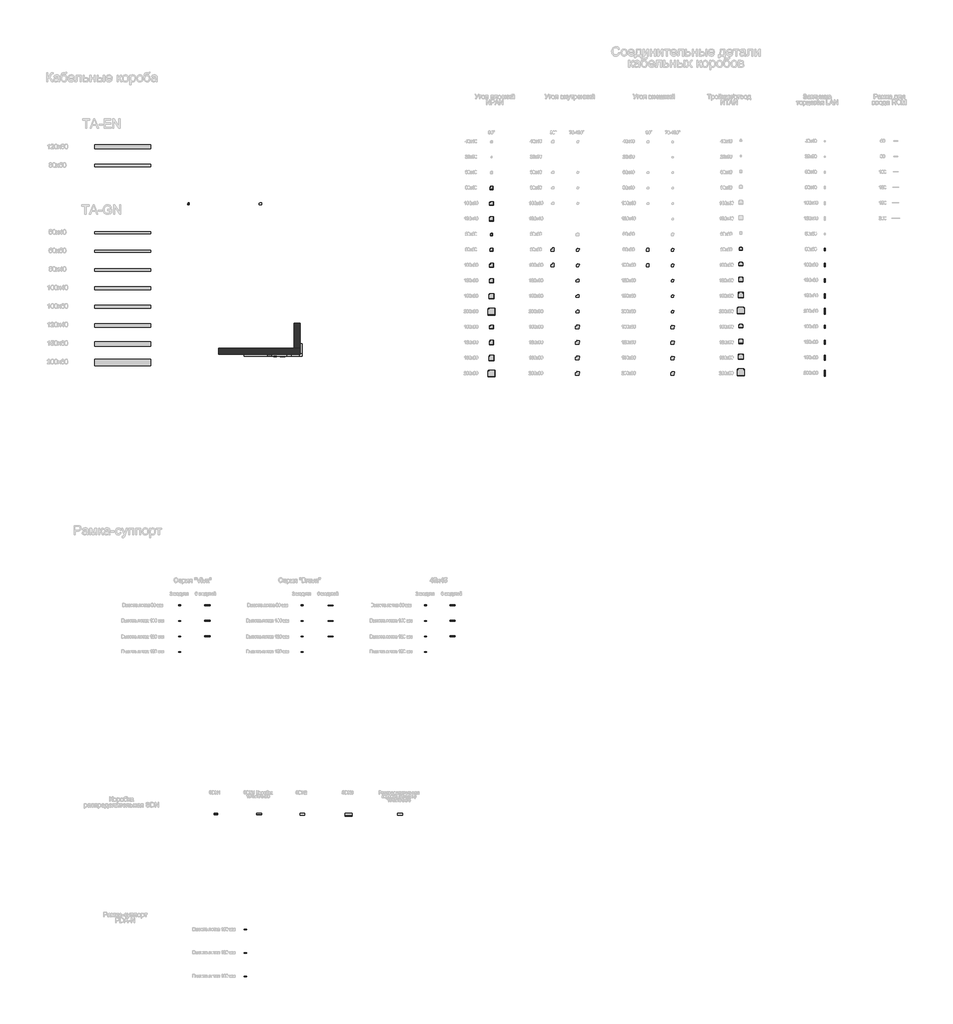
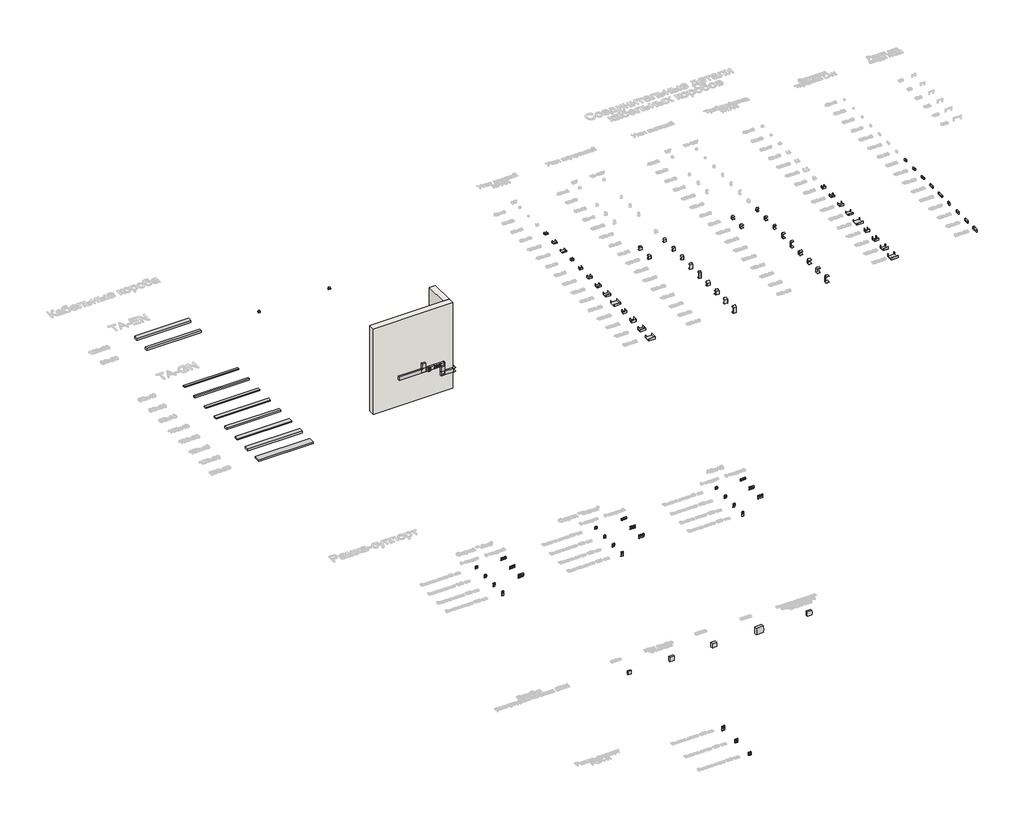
# One storey, part 1 of 28: 59 cable carrier fittings, 38 proxies, 16 cable carrier segments, 2 walls.
"""IFC4 building model written with IfcOpenShell, lengths in millimetres."""

from ifc_helpers import new_model, si_unit, frame, origin, origin_with_axes, place, context, project, spatial, polyline, outline, extrude, faceted_brep, transform, mapped, element, save
from components import electrical_fixtures_6e8f248d, electrical_fixtures_a8bc6f34, electrical_fixtures_fbb4b2cf, sdn2_b9b71641, electrical_fixtures_2476e472, electrical_fixtures_c9cc8b38, electrical_fixtures_5255f015, electrical_fixtures_99f2c199, electrical_fixtures_5095c1bf, electrical_fixtures_38645a5d, electrical_fixtures_1235a608, electrical_fixtures_d3c7e23e, electrical_fixtures_93f455a8, electrical_fixtures_0df07c0a, electrical_fixtures_3a0d8bb6, electrical_fixtures_2c16e1f9, electrical_fixtures_591d0eef, electrical_fixtures_22397321, electrical_fixtures_6fa73d0b, electrical_fixtures_3ef248d6, electrical_fixtures_5d0bade8, electrical_fixtures_432cce51, electrical_fixtures_4fcbd48c, electrical_fixtures_7fec0965, electrical_fixtures_80402f6c, electrical_fixtures_b42f28bd, electrical_fixtures_c11c9339, electrical_fixtures_f8a1da3e, electrical_fixtures_c1d9d696, electrical_fixtures_416891ac, sdn1_948e4bac, sdn3_be96d865, cable_carrier_fitting_0575ba35, cable_carrier_fitting_56f15a03, cable_carrier_fitting_73be0968, cable_carrier_fitting_7613269a, cable_carrier_fitting_b300afac, cable_carrier_fitting_613d6a40, cable_carrier_fitting_a28d7fdf, cable_carrier_fitting_3f10c478, cable_carrier_fitting_50db2390, cable_carrier_fitting_ee93082e, cable_carrier_fitting_aaff8641, cable_carrier_fitting_9a72e03a, cable_carrier_fitting_3be20063, cable_carrier_fitting_1a8395f6, cable_carrier_fitting_4b7b0116, cable_carrier_fitting_b38a09ab, cable_carrier_fitting_fade92e3, cable_carrier_fitting_c60b507b, cable_carrier_fitting_d44bfa05, cable_carrier_fitting_6b07f833, cable_carrier_fitting_13c22987, cable_carrier_fitting_f76ab945, cable_carrier_fitting_b63a8de4, cable_carrier_fitting_f998bf8a, cable_carrier_fitting_c251a1f0, cable_carrier_fitting_1948c760, cable_carrier_fitting_fe72e667, cable_carrier_fitting_b617fa5a, cable_carrier_fitting_cc2d4106, cable_carrier_fitting_2fb35160, cable_carrier_fitting_8d848939, cable_carrier_fitting_27f110be, cable_carrier_fitting_e4d8e6e0, cable_carrier_fitting_c69b3609, cable_carrier_fitting_0039d5f1, cable_carrier_fitting_fe56e331, cable_carrier_fitting_2194a555, cable_carrier_fitting_be7ff779, cable_carrier_fitting_7acc3acb, cable_carrier_fitting_e9df8fe0, cable_carrier_fitting_b130910e, cable_carrier_fitting_7ee510ea, cable_carrier_fitting_65dc1eb4, cable_carrier_fitting_08323b9c, cable_carrier_fitting_25b4d83d, cable_carrier_fitting_59f07115, cable_carrier_fitting_e31a74c1, cable_carrier_fitting_a3d88900, cable_carrier_fitting_4aacc9ff, cable_carrier_fitting_ef85a075, cable_carrier_fitting_e598b078, cable_carrier_fitting_8e881f24, cable_carrier_fitting_521029ce, cable_carrier_fitting_6c5671ed, cable_carrier_fitting_3baeb6d4, cable_carrier_fitting_06fe3dde, cable_carrier_fitting_a1622b1d, cable_carrier_fitting_fd6ecaf9

model = new_model("IFC4")

# Units and contexts
model_context = context("Model", 3, world=origin())
ifc_project = project(units=[si_unit("LENGTHUNIT", "METRE", prefix="MILLI")], contexts=[model_context])

# Site, building, storey
site = spatial("IfcSite", under=ifc_project)
building = spatial("IfcBuilding", under=site)
storey = spatial("IfcBuildingStorey", under=building, Name="Этаж 01", Elevation=0.0)

# Proxies
placement = place(None, origin())
electrical_fixtures_shape = electrical_fixtures_6e8f248d(model_context)
element("IfcBuildingElementProxy", 1, Name="КНС_СиловыеЭлектрическиеРозеткиШтекерныеСЗаземлениемИСоШторками_DKC : Белый", ObjectType="КНС_СиловыеЭлектрическиеРозеткиШтекерныеСЗаземлениемИСоШторками_DKC : Белый", at=placement, inside=storey, context=model_context, shape_type="MappedRepresentation", body=[
    mapped(electrical_fixtures_shape, transform((7010.305956, -3848.3703067, 1023.5822995), x_axis=(1.0, 0.0, 0.0), y_axis=(0.0, 1.0, 0.0), z_axis=(0.0, 0.0, 1.0))),
])
element("IfcBuildingElementProxy", 2, Name="КНС_СиловыеЭлектрическиеРозеткиШтекерныеСЗаземлениемИСоШторками_DKC : Белый", ObjectType="КНС_СиловыеЭлектрическиеРозеткиШтекерныеСЗаземлениемИСоШторками_DKC : Белый", at=placement, inside=storey, context=model_context, shape_type="MappedRepresentation", body=[
    mapped(electrical_fixtures_shape, transform((7062.805956, -3848.3703067, 1023.5822995), x_axis=(1.0, 0.0, 0.0), y_axis=(0.0, 1.0, 0.0), z_axis=(0.0, 0.0, 1.0))),
])
element("IfcBuildingElementProxy", 3, Name="КНС_СиловыеЭлектрическиеРозеткиШтекерныеСЗаземлениемИСоШторками_DKC : Белый", ObjectType="КНС_СиловыеЭлектрическиеРозеткиШтекерныеСЗаземлениемИСоШторками_DKC : Белый", at=placement, inside=storey, context=model_context, shape_type="MappedRepresentation", body=[
    mapped(electrical_fixtures_shape, transform((6800.3265592, -3850.4453067, 1000.0), x_axis=(1.0, 0.0, 0.0), y_axis=(0.0, 1.0, 0.0), z_axis=(0.0, 0.0, 1.0))),
])
electrical_fixtures_2_shape = electrical_fixtures_a8bc6f34(model_context)
element("IfcBuildingElementProxy", 4, Name="КНС_КомпьютерныеРозетки_DKC : Категория 5e", ObjectType="КНС_КомпьютерныеРозетки_DKC : Категория 5e", at=placement, inside=storey, context=model_context, shape_type="MappedRepresentation", body=[
    mapped(electrical_fixtures_2_shape, transform((7102.3876266, -3862.6703067, 1023.5822995), x_axis=(1.0, 0.0, 0.0), y_axis=(0.0, 1.0, 0.0), z_axis=(0.0, 0.0, 1.0))),
])
electrical_fixtures_3_shape = electrical_fixtures_fbb4b2cf(model_context)
element("IfcBuildingElementProxy", 5, Name="КНС_КоробкаРаспределительнаяSDN_ILC_DKC : SDN1 Коробка 151х151х60", ObjectType="КНС_КоробкаРаспределительнаяSDN_ILC_DKC : SDN1 Коробка 151х151х60", at=placement, inside=storey, context=model_context, shape_type="MappedRepresentation", body=[
    mapped(electrical_fixtures_3_shape, transform((6281.6292465, -18646.7707518, 0.0), x_axis=(1.0, 0.0, 0.0), y_axis=(0.0, 1.0, 0.0), z_axis=(0.0, 0.0, 1.0))),
])
sdn2_shape = sdn2_b9b71641(model_context)
element("IfcBuildingElementProxy", 6, Name="КНС_КоробкаРаспределительнаяSDN_ILC_DKC : Распределительная коробка (Италия) 151х151х75", ObjectType="КНС_КоробкаРаспределительнаяSDN_ILC_DKC : Распределительная коробка (Италия) 151х151х75", at=placement, inside=storey, context=model_context, shape_type="MappedRepresentation", body=[
    mapped(sdn2_shape, transform((10841.6292465, -18646.7707518, 0.0), x_axis=(1.0, 0.0, 0.0), y_axis=(0.0, 1.0, 0.0), z_axis=(0.0, 0.0, 1.0))),
])
electrical_fixtures_4_shape = electrical_fixtures_2476e472(model_context)
element("IfcBuildingElementProxy", 7, Name="КНС_КаркасНа2Модуля(одноместный)БезЛапок_DKC : 2 модуля", ObjectType="КНС_КаркасНа2Модуля(одноместный)БезЛапок_DKC : 2 модуля", at=placement, inside=storey, context=model_context, shape_type="MappedRepresentation", body=[
    mapped(electrical_fixtures_4_shape, transform((6799.7623631, -3878.7453067, 1000.0), x_axis=(1.0, 0.0, 0.0), y_axis=(0.0, 1.0, 0.0), z_axis=(0.0, 0.0, 1.0))),
])
electrical_fixtures_5_shape = electrical_fixtures_c9cc8b38(model_context)
element("IfcBuildingElementProxy", 8, Name="КНС_РамкаДляМонтажаЭУИBravaВКоробкиPDD-N60_DKC : 2 модуля", ObjectType="КНС_РамкаДляМонтажаЭУИBravaВКоробкиPDD-N60_DKC : 2 модуля", at=placement, inside=storey, context=model_context, shape_type="MappedRepresentation", body=[
    mapped(electrical_fixtures_5_shape, transform((6799.7623631, -3880.7453067, 1000.0), x_axis=(1.0, 0.0, 0.0), y_axis=(0.0, 1.0, 0.0), z_axis=(0.0, 0.0, 1.0))),
])
electrical_fixtures_6_shape = electrical_fixtures_5255f015(model_context)
element("IfcBuildingElementProxy", 9, Name="КНС_РамкаСуппортPDA-N_ILC_DKC : Рамка суппорт PDA-N_DKC", ObjectType="КНС_РамкаСуппортPDA-N_ILC_DKC : Рамка суппорт PDA-N_DKC", at=placement, inside=storey, context=model_context, shape_type="MappedRepresentation", body=[
    mapped(electrical_fixtures_6_shape, transform((5839.6254197, -23925.9633295, 0.0), x_axis=(1.0, 0.0, 0.0), y_axis=(0.0, 1.0, 0.0), z_axis=(0.0, 0.0, 1.0))),
])
electrical_fixtures_7_shape = electrical_fixtures_99f2c199(model_context)
element("IfcBuildingElementProxy", 10, Name="КНС_РамкаСуппорт_ILC_DKC : Серия \"Viva\"", ObjectType="КНС_РамкаСуппорт_ILC_DKC : Серия \"Viva\"", at=placement, inside=storey, context=model_context, shape_type="MappedRepresentation", body=[
    mapped(electrical_fixtures_7_shape, transform((7049.7623631, -3869.7453067, 1000.0), x_axis=(1.0, 0.0, 0.0), y_axis=(0.0, 1.0, 0.0), z_axis=(0.0, 0.0, 1.0))),
])
element("IfcBuildingElementProxy", 11, Name="КНС_РамкаСуппорт_ILC_DKC : Серия \"Viva\"", ObjectType="КНС_РамкаСуппорт_ILC_DKC : Серия \"Viva\"", at=placement, inside=storey, context=model_context, shape_type="MappedRepresentation", body=[
    mapped(electrical_fixtures_7_shape, transform((4609.3035313, -12923.4358834, 0.0), x_axis=(1.0, 0.0, 0.0), y_axis=(0.0, 1.0, 0.0), z_axis=(0.0, 0.0, 1.0))),
])
electrical_fixtures_8_shape = electrical_fixtures_5095c1bf(model_context)
element("IfcBuildingElementProxy", 12, Name="КНС_РамкаСуппорт_ILC_DKC : Серия \"Brava\"", ObjectType="КНС_РамкаСуппорт_ILC_DKC : Серия \"Brava\"", at=placement, inside=storey, context=model_context, shape_type="MappedRepresentation", body=[
    mapped(electrical_fixtures_8_shape, transform((8596.3371179, -12929.6171992, 0.0), x_axis=(1.0, 0.0, 0.0), y_axis=(0.0, 1.0, 0.0), z_axis=(0.0, 0.0, 1.0))),
])
electrical_fixtures_9_shape = electrical_fixtures_38645a5d(model_context)
element("IfcBuildingElementProxy", 13, Name="КНС_РамкаСуппорт_ILC_DKC : 45х45", ObjectType="КНС_РамкаСуппорт_ILC_DKC : 45х45", at=placement, inside=storey, context=model_context, shape_type="MappedRepresentation", body=[
    mapped(electrical_fixtures_9_shape, transform((12545.2713455, -12923.4358834, 0.0), x_axis=(1.0, 0.0, 0.0), y_axis=(0.0, 1.0, 0.0), z_axis=(0.0, 0.0, 1.0))),
])
electrical_fixtures_10_shape = electrical_fixtures_1235a608(model_context)
element("IfcBuildingElementProxy", 14, Name="КНС_РамкаСуппортPDA-N_ILC_DKC : Рамка суппорт PDA-N_DKC", ObjectType="КНС_РамкаСуппортPDA-N_ILC_DKC : Рамка суппорт PDA-N_DKC", at=placement, inside=storey, context=model_context, shape_type="MappedRepresentation", body=[
    mapped(electrical_fixtures_10_shape, transform((5839.6254197, -22407.9286933, 0.0), x_axis=(1.0, 0.0, 0.0), y_axis=(0.0, 1.0, 0.0), z_axis=(0.0, 0.0, 1.0))),
])
electrical_fixtures_11_shape = electrical_fixtures_d3c7e23e(model_context)
element("IfcBuildingElementProxy", 15, Name="КНС_РамкаСуппортPDA-N_ILC_DKC : Рамка суппорт PDA-N_DKC", ObjectType="КНС_РамкаСуппортPDA-N_ILC_DKC : Рамка суппорт PDA-N_DKC", at=placement, inside=storey, context=model_context, shape_type="MappedRepresentation", body=[
    mapped(electrical_fixtures_11_shape, transform((6799.7623631, -3869.7453067, 1000.0), x_axis=(1.0, 0.0, 0.0), y_axis=(0.0, 1.0, 0.0), z_axis=(0.0, 0.0, 1.0))),
])
element("IfcBuildingElementProxy", 16, Name="КНС_РамкаСуппортPDA-N_ILC_DKC : Рамка суппорт PDA-N_DKC", ObjectType="КНС_РамкаСуппортPDA-N_ILC_DKC : Рамка суппорт PDA-N_DKC", at=placement, inside=storey, context=model_context, shape_type="MappedRepresentation", body=[
    mapped(electrical_fixtures_11_shape, transform((5839.6254197, -23166.9460114, 0.0), x_axis=(1.0, 0.0, 0.0), y_axis=(0.0, 1.0, 0.0), z_axis=(0.0, 0.0, 1.0))),
])
electrical_fixtures_12_shape = electrical_fixtures_93f455a8(model_context)
element("IfcBuildingElementProxy", 17, Name="КНС_РамкаСуппорт_ILC_DKC : Серия \"Viva\"", ObjectType="КНС_РамкаСуппорт_ILC_DKC : Серия \"Viva\"", at=placement, inside=storey, context=model_context, shape_type="MappedRepresentation", body=[
    mapped(electrical_fixtures_12_shape, transform((3712.4014297, -12431.8358834, 0.0), x_axis=(1.0, 0.0, 0.0), y_axis=(0.0, 1.0, 0.0), z_axis=(0.0, 0.0, 1.0))),
])
electrical_fixtures_13_shape = electrical_fixtures_0df07c0a(model_context)
element("IfcBuildingElementProxy", 18, Name="КНС_РамкаСуппорт_ILC_DKC : Серия \"Viva\"", ObjectType="КНС_РамкаСуппорт_ILC_DKC : Серия \"Viva\"", at=placement, inside=storey, context=model_context, shape_type="MappedRepresentation", body=[
    mapped(electrical_fixtures_13_shape, transform((3712.4014297, -12931.8358834, 0.0), x_axis=(1.0, 0.0, 0.0), y_axis=(0.0, 1.0, 0.0), z_axis=(0.0, 0.0, 1.0))),
])
electrical_fixtures_14_shape = electrical_fixtures_3a0d8bb6(model_context)
element("IfcBuildingElementProxy", 19, Name="КНС_РамкаСуппорт_ILC_DKC : Серия \"Viva\"", ObjectType="КНС_РамкаСуппорт_ILC_DKC : Серия \"Viva\"", at=placement, inside=storey, context=model_context, shape_type="MappedRepresentation", body=[
    mapped(electrical_fixtures_14_shape, transform((3712.4014297, -13431.8358834, 0.0), x_axis=(1.0, 0.0, 0.0), y_axis=(0.0, 1.0, 0.0), z_axis=(0.0, 0.0, 1.0))),
])
electrical_fixtures_15_shape = electrical_fixtures_2c16e1f9(model_context)
element("IfcBuildingElementProxy", 20, Name="КНС_РамкаСуппорт_ILC_DKC : Серия \"Viva\"", ObjectType="КНС_РамкаСуппорт_ILC_DKC : Серия \"Viva\"", at=placement, inside=storey, context=model_context, shape_type="MappedRepresentation", body=[
    mapped(electrical_fixtures_15_shape, transform((4609.3035313, -11923.4358834, 0.0), x_axis=(1.0, 0.0, 0.0), y_axis=(0.0, 1.0, 0.0), z_axis=(0.0, 0.0, 1.0))),
])
electrical_fixtures_16_shape = electrical_fixtures_591d0eef(model_context)
element("IfcBuildingElementProxy", 21, Name="КНС_РамкаСуппорт_ILC_DKC : Серия \"Viva\"", ObjectType="КНС_РамкаСуппорт_ILC_DKC : Серия \"Viva\"", at=placement, inside=storey, context=model_context, shape_type="MappedRepresentation", body=[
    mapped(electrical_fixtures_16_shape, transform((4609.3035313, -12423.4358834, 0.0), x_axis=(1.0, 0.0, 0.0), y_axis=(0.0, 1.0, 0.0), z_axis=(0.0, 0.0, 1.0))),
])
electrical_fixtures_17_shape = electrical_fixtures_22397321(model_context)
element("IfcBuildingElementProxy", 22, Name="КНС_РамкаСуппорт_ILC_DKC : Серия \"Viva\"", ObjectType="КНС_РамкаСуппорт_ILC_DKC : Серия \"Viva\"", at=placement, inside=storey, context=model_context, shape_type="MappedRepresentation", body=[
    mapped(electrical_fixtures_17_shape, transform((3712.4014297, -11923.4358834, 0.0), x_axis=(1.0, 0.0, 0.0), y_axis=(0.0, 1.0, 0.0), z_axis=(0.0, 0.0, 1.0))),
])
electrical_fixtures_18_shape = electrical_fixtures_6fa73d0b(model_context)
element("IfcBuildingElementProxy", 23, Name="КНС_РамкаСуппорт_ILC_DKC : Серия \"Brava\"", ObjectType="КНС_РамкаСуппорт_ILC_DKC : Серия \"Brava\"", at=placement, inside=storey, context=model_context, shape_type="MappedRepresentation", body=[
    mapped(electrical_fixtures_18_shape, transform((7672.4014297, -12431.8358834, 0.0), x_axis=(1.0, 0.0, 0.0), y_axis=(0.0, 1.0, 0.0), z_axis=(0.0, 0.0, 1.0))),
])
electrical_fixtures_19_shape = electrical_fixtures_3ef248d6(model_context)
element("IfcBuildingElementProxy", 24, Name="КНС_РамкаСуппорт_ILC_DKC : Серия \"Brava\"", ObjectType="КНС_РамкаСуппорт_ILC_DKC : Серия \"Brava\"", at=placement, inside=storey, context=model_context, shape_type="MappedRepresentation", body=[
    mapped(electrical_fixtures_19_shape, transform((7672.4014297, -12931.8358834, 0.0), x_axis=(1.0, 0.0, 0.0), y_axis=(0.0, 1.0, 0.0), z_axis=(0.0, 0.0, 1.0))),
])
electrical_fixtures_20_shape = electrical_fixtures_5d0bade8(model_context)
element("IfcBuildingElementProxy", 25, Name="КНС_РамкаСуппорт_ILC_DKC : Серия \"Brava\"", ObjectType="КНС_РамкаСуппорт_ILC_DKC : Серия \"Brava\"", at=placement, inside=storey, context=model_context, shape_type="MappedRepresentation", body=[
    mapped(electrical_fixtures_20_shape, transform((7672.4014297, -13431.8358834, 0.0), x_axis=(1.0, 0.0, 0.0), y_axis=(0.0, 1.0, 0.0), z_axis=(0.0, 0.0, 1.0))),
])
electrical_fixtures_21_shape = electrical_fixtures_432cce51(model_context)
element("IfcBuildingElementProxy", 26, Name="КНС_РамкаСуппорт_ILC_DKC : Серия \"Brava\"", ObjectType="КНС_РамкаСуппорт_ILC_DKC : Серия \"Brava\"", at=placement, inside=storey, context=model_context, shape_type="MappedRepresentation", body=[
    mapped(electrical_fixtures_21_shape, transform((8596.3371179, -11929.6171992, 0.0), x_axis=(1.0, 0.0, 0.0), y_axis=(0.0, 1.0, 0.0), z_axis=(0.0, 0.0, 1.0))),
])
electrical_fixtures_22_shape = electrical_fixtures_4fcbd48c(model_context)
element("IfcBuildingElementProxy", 27, Name="КНС_РамкаСуппорт_ILC_DKC : Серия \"Brava\"", ObjectType="КНС_РамкаСуппорт_ILC_DKC : Серия \"Brava\"", at=placement, inside=storey, context=model_context, shape_type="MappedRepresentation", body=[
    mapped(electrical_fixtures_22_shape, transform((8596.3371179, -12429.6171992, 0.0), x_axis=(1.0, 0.0, 0.0), y_axis=(0.0, 1.0, 0.0), z_axis=(0.0, 0.0, 1.0))),
])
electrical_fixtures_23_shape = electrical_fixtures_7fec0965(model_context)
element("IfcBuildingElementProxy", 28, Name="КНС_РамкаСуппорт_ILC_DKC : Серия \"Brava\"", ObjectType="КНС_РамкаСуппорт_ILC_DKC : Серия \"Brava\"", at=placement, inside=storey, context=model_context, shape_type="MappedRepresentation", body=[
    mapped(electrical_fixtures_23_shape, transform((7672.4014297, -11923.4358834, 0.0), x_axis=(1.0, 0.0, 0.0), y_axis=(0.0, 1.0, 0.0), z_axis=(0.0, 0.0, 1.0))),
])
electrical_fixtures_24_shape = electrical_fixtures_80402f6c(model_context)
element("IfcBuildingElementProxy", 29, Name="КНС_РамкаСуппорт_ILC_DKC : 45х45", ObjectType="КНС_РамкаСуппорт_ILC_DKC : 45х45", at=placement, inside=storey, context=model_context, shape_type="MappedRepresentation", body=[
    mapped(electrical_fixtures_24_shape, transform((11672.4014297, -12431.8358834, 0.0), x_axis=(1.0, 0.0, 0.0), y_axis=(0.0, 1.0, 0.0), z_axis=(0.0, 0.0, 1.0))),
])
electrical_fixtures_25_shape = electrical_fixtures_b42f28bd(model_context)
element("IfcBuildingElementProxy", 30, Name="КНС_РамкаСуппорт_ILC_DKC : 45х45", ObjectType="КНС_РамкаСуппорт_ILC_DKC : 45х45", at=placement, inside=storey, context=model_context, shape_type="MappedRepresentation", body=[
    mapped(electrical_fixtures_25_shape, transform((11672.4014297, -12931.8358834, 0.0), x_axis=(1.0, 0.0, 0.0), y_axis=(0.0, 1.0, 0.0), z_axis=(0.0, 0.0, 1.0))),
])
element("IfcBuildingElementProxy", 31, Name="КНС_РамкаСуппорт_ILC_DKC : 45х45", ObjectType="КНС_РамкаСуппорт_ILC_DKC : 45х45", at=placement, inside=storey, context=model_context, shape_type="MappedRepresentation", body=[
    mapped(electrical_fixtures_14_shape, transform((11672.4014297, -13431.8358834, 0.0), x_axis=(1.0, 0.0, 0.0), y_axis=(0.0, 1.0, 0.0), z_axis=(0.0, 0.0, 1.0))),
])
electrical_fixtures_26_shape = electrical_fixtures_c11c9339(model_context)
element("IfcBuildingElementProxy", 32, Name="КНС_РамкаСуппорт_ILC_DKC : 45х45", ObjectType="КНС_РамкаСуппорт_ILC_DKC : 45х45", at=placement, inside=storey, context=model_context, shape_type="MappedRepresentation", body=[
    mapped(electrical_fixtures_26_shape, transform((12545.2713455, -11923.4358834, 0.0), x_axis=(1.0, 0.0, 0.0), y_axis=(0.0, 1.0, 0.0), z_axis=(0.0, 0.0, 1.0))),
])
electrical_fixtures_27_shape = electrical_fixtures_f8a1da3e(model_context)
element("IfcBuildingElementProxy", 33, Name="КНС_РамкаСуппорт_ILC_DKC : 45х45", ObjectType="КНС_РамкаСуппорт_ILC_DKC : 45х45", at=placement, inside=storey, context=model_context, shape_type="MappedRepresentation", body=[
    mapped(electrical_fixtures_27_shape, transform((12545.2713455, -12423.4358834, 0.0), x_axis=(1.0, 0.0, 0.0), y_axis=(0.0, 1.0, 0.0), z_axis=(0.0, 0.0, 1.0))),
])
electrical_fixtures_28_shape = electrical_fixtures_c1d9d696(model_context)
element("IfcBuildingElementProxy", 34, Name="КНС_РамкаСуппорт_ILC_DKC : 45х45", ObjectType="КНС_РамкаСуппорт_ILC_DKC : 45х45", at=placement, inside=storey, context=model_context, shape_type="MappedRepresentation", body=[
    mapped(electrical_fixtures_28_shape, transform((11672.4014297, -11923.4358834, 0.0), x_axis=(1.0, 0.0, 0.0), y_axis=(0.0, 1.0, 0.0), z_axis=(0.0, 0.0, 1.0))),
])
electrical_fixtures_29_shape = electrical_fixtures_416891ac(model_context)
element("IfcBuildingElementProxy", 35, Name="КНС_СуппортДляМонтажаЭУИСерииVivaНаDIN-рейкуИлиМонтажнуюПлату_DKC : 1 модуль", ObjectType="КНС_СуппортДляМонтажаЭУИСерииVivaНаDIN-рейкуИлиМонтажнуюПлату_DKC : 1 модуль", at=placement, inside=storey, context=model_context, shape_type="MappedRepresentation", body=[
    mapped(electrical_fixtures_29_shape, transform((7102.3876266, -3874.6703067, 1023.5822995), x_axis=(1.0, 0.0, 0.0), y_axis=(0.0, 1.0, 0.0), z_axis=(0.0, 0.0, 1.0))),
])
sdn1_shape = sdn1_948e4bac(model_context)
element("IfcBuildingElementProxy", 36, Name="КНС_КоробкаРаспределительнаяSDN_ILC_DKC : SDN1", ObjectType="КНС_КоробкаРаспределительнаяSDN_ILC_DKC : SDN1", at=placement, inside=storey, context=model_context, shape_type="MappedRepresentation", body=[
    mapped(sdn1_shape, transform((4881.6292465, -18646.7707518, 0.0), x_axis=(1.0, 0.0, 0.0), y_axis=(0.0, 1.0, 0.0), z_axis=(0.0, 0.0, 1.0))),
])
element("IfcBuildingElementProxy", 37, Name="КНС_КоробкаРаспределительнаяSDN_ILC_DKC : SDN2", ObjectType="КНС_КоробкаРаспределительнаяSDN_ILC_DKC : SDN2", at=placement, inside=storey, context=model_context, shape_type="MappedRepresentation", body=[
    mapped(sdn2_shape, transform((7681.6292465, -18646.7707518, 0.0), x_axis=(1.0, 0.0, 0.0), y_axis=(0.0, 1.0, 0.0), z_axis=(0.0, 0.0, 1.0))),
])
sdn3_shape = sdn3_be96d865(model_context)
element("IfcBuildingElementProxy", 38, Name="КНС_КоробкаРаспределительнаяSDN_ILC_DKC : SDN3", ObjectType="КНС_КоробкаРаспределительнаяSDN_ILC_DKC : SDN3", at=placement, inside=storey, context=model_context, shape_type="MappedRepresentation", body=[
    mapped(sdn3_shape, transform((9181.6292465, -18646.7707518, 0.0), x_axis=(1.0, 0.0, 0.0), y_axis=(0.0, 1.0, 0.0), z_axis=(0.0, 0.0, 1.0))),
])

# Cable carrier fittings
cable_carrier_fitting_shape = cable_carrier_fitting_0575ba35(model_context)
element("IfcCableCarrierFitting", 39, ObjectType="КНС_ЗаглушкаТорцеваяLAN_ILC_DKC : Заглушка торцевая LAN_DKC", at=placement, inside=storey, context=model_context, shape_type="MappedRepresentation", body=[
    mapped(cable_carrier_fitting_shape, transform((24603.0645547, -2919.2088172, 0.0), x_axis=(1.0, 0.0, 0.0), y_axis=(0.0, 1.0, 0.0), z_axis=(0.0, 0.0, 1.0))),
])
cable_carrier_fitting_2_shape = cable_carrier_fitting_56f15a03(model_context)
element("IfcCableCarrierFitting", 40, ObjectType="КНС_УголВнутренний_ILC_DKC : Угол внутренний_DKC", at=placement, inside=storey, context=model_context, shape_type="MappedRepresentation", body=[
    mapped(cable_carrier_fitting_2_shape, transform((6338.4803955, 1049.7118097, 1000.0), x_axis=(1.0, 0.0, 0.0), y_axis=(0.0, 1.0, 0.0), z_axis=(0.0, 0.0, 1.0))),
])
cable_carrier_fitting_3_shape = cable_carrier_fitting_73be0968(model_context)
element("IfcCableCarrierFitting", 41, ObjectType="КНС_УголПлоский NPAN_ILC_DKC : Угол плоский NPAN_DKC", at=placement, inside=storey, context=model_context, shape_type="MappedRepresentation", body=[
    mapped(cable_carrier_fitting_3_shape, transform((4006.9975051, 1048.4716498, 1000.0), x_axis=(1.0, 0.0, 0.0), y_axis=(0.0, 1.0, 0.0), z_axis=(0.0, 0.0, 1.0))),
])
cable_carrier_fitting_4_shape = cable_carrier_fitting_7613269a(model_context)
element("IfcCableCarrierFitting", 42, ObjectType="КНС_УголПлоский NPAN_ILC_DKC : Угол плоский NPAN_DKC", at=placement, inside=storey, context=model_context, shape_type="MappedRepresentation", body=[
    mapped(cable_carrier_fitting_4_shape, transform((7254.7623631, -3839.7453067, 1000.0), x_axis=(1.0, 0.0, 0.0), y_axis=(0.0, 0.0, 1.0), z_axis=(0.0, -1.0, 0.0))),
])
element("IfcCableCarrierFitting", 43, ObjectType="КНС_УголПлоский NPAN_ILC_DKC : Угол плоский NPAN_DKC", at=placement, inside=storey, context=model_context, shape_type="MappedRepresentation", body=[
    mapped(cable_carrier_fitting_4_shape, transform((7254.7623631, -3839.7453067, 675.0500738), x_axis=(-1.0, 0.0, 0.0), y_axis=(0.0, 0.0, -1.0), z_axis=(0.0, -1.0, 0.0))),
])
cable_carrier_fitting_5_shape = cable_carrier_fitting_b300afac(model_context)
element("IfcCableCarrierFitting", 44, ObjectType="КНС_УголПлоский NPAN_ILC_DKC : Угол плоский NPAN_DKC", at=placement, inside=storey, context=model_context, shape_type="MappedRepresentation", body=[
    mapped(cable_carrier_fitting_5_shape, transform((13813.1010063, 1560.7911828, 0.0), x_axis=(1.0, 0.0, 0.0), y_axis=(0.0, 1.0, 0.0), z_axis=(0.0, 0.0, 1.0))),
])
cable_carrier_fitting_6_shape = cable_carrier_fitting_613d6a40(model_context)
element("IfcCableCarrierFitting", 45, ObjectType="КНС_УголПлоский NPAN_ILC_DKC : Угол плоский NPAN_DKC", at=placement, inside=storey, context=model_context, shape_type="MappedRepresentation", body=[
    mapped(cable_carrier_fitting_6_shape, transform((13813.1010063, 1060.7911828, 0.0), x_axis=(1.0, 0.0, 0.0), y_axis=(0.0, 1.0, 0.0), z_axis=(0.0, 0.0, 1.0))),
])
cable_carrier_fitting_7_shape = cable_carrier_fitting_a28d7fdf(model_context)
element("IfcCableCarrierFitting", 46, ObjectType="КНС_УголПлоский NPAN_ILC_DKC : Угол плоский NPAN_DKC", at=placement, inside=storey, context=model_context, shape_type="MappedRepresentation", body=[
    mapped(cable_carrier_fitting_7_shape, transform((13813.1010063, 560.7911828, 0.0), x_axis=(1.0, 0.0, 0.0), y_axis=(0.0, 1.0, 0.0), z_axis=(0.0, 0.0, 1.0))),
])
cable_carrier_fitting_8_shape = cable_carrier_fitting_3f10c478(model_context)
element("IfcCableCarrierFitting", 47, ObjectType="КНС_УголПлоский NPAN_ILC_DKC : Угол плоский NPAN_DKC", at=placement, inside=storey, context=model_context, shape_type="MappedRepresentation", body=[
    mapped(cable_carrier_fitting_8_shape, transform((13813.1010063, 60.7911828, 0.0), x_axis=(1.0, 0.0, 0.0), y_axis=(0.0, 1.0, 0.0), z_axis=(0.0, 0.0, 1.0))),
])
cable_carrier_fitting_9_shape = cable_carrier_fitting_50db2390(model_context)
element("IfcCableCarrierFitting", 48, ObjectType="КНС_УголПлоский NPAN_ILC_DKC : Угол плоский NPAN_DKC", at=placement, inside=storey, context=model_context, shape_type="MappedRepresentation", body=[
    mapped(cable_carrier_fitting_9_shape, transform((13813.1010063, -439.2088172, 0.0), x_axis=(1.0, 0.0, 0.0), y_axis=(0.0, 1.0, 0.0), z_axis=(0.0, 0.0, 1.0))),
])
cable_carrier_fitting_10_shape = cable_carrier_fitting_ee93082e(model_context)
element("IfcCableCarrierFitting", 49, ObjectType="КНС_УголПлоский NPAN_ILC_DKC : Угол плоский NPAN_DKC", at=placement, inside=storey, context=model_context, shape_type="MappedRepresentation", body=[
    mapped(cable_carrier_fitting_10_shape, transform((13813.1010063, -939.2088172, 0.0), x_axis=(1.0, 0.0, 0.0), y_axis=(0.0, 1.0, 0.0), z_axis=(0.0, 0.0, 1.0))),
])
cable_carrier_fitting_11_shape = cable_carrier_fitting_aaff8641(model_context)
element("IfcCableCarrierFitting", 50, ObjectType="КНС_УголПлоский NPAN_ILC_DKC : Угол плоский NPAN_DKC", at=placement, inside=storey, context=model_context, shape_type="MappedRepresentation", body=[
    mapped(cable_carrier_fitting_11_shape, transform((13813.1010063, -1439.2088172, 0.0), x_axis=(1.0, 0.0, 0.0), y_axis=(0.0, 1.0, 0.0), z_axis=(0.0, 0.0, 1.0))),
])
cable_carrier_fitting_12_shape = cable_carrier_fitting_9a72e03a(model_context)
element("IfcCableCarrierFitting", 51, ObjectType="КНС_УголПлоский NPAN_ILC_DKC : Угол плоский NPAN_DKC", at=placement, inside=storey, context=model_context, shape_type="MappedRepresentation", body=[
    mapped(cable_carrier_fitting_12_shape, transform((13813.1010063, -1939.2088172, 0.0), x_axis=(1.0, 0.0, 0.0), y_axis=(0.0, 1.0, 0.0), z_axis=(0.0, 0.0, 1.0))),
])
cable_carrier_fitting_13_shape = cable_carrier_fitting_3be20063(model_context)
element("IfcCableCarrierFitting", 52, ObjectType="КНС_УголПлоский NPAN_ILC_DKC : Угол плоский NPAN_DKC", at=placement, inside=storey, context=model_context, shape_type="MappedRepresentation", body=[
    mapped(cable_carrier_fitting_13_shape, transform((13813.1010063, -2439.2088172, 0.0), x_axis=(1.0, 0.0, 0.0), y_axis=(0.0, 1.0, 0.0), z_axis=(0.0, 0.0, 1.0))),
])
cable_carrier_fitting_14_shape = cable_carrier_fitting_1a8395f6(model_context)
element("IfcCableCarrierFitting", 53, ObjectType="КНС_УголПлоский NPAN_ILC_DKC : Угол плоский NPAN_DKC", at=placement, inside=storey, context=model_context, shape_type="MappedRepresentation", body=[
    mapped(cable_carrier_fitting_14_shape, transform((13813.1010063, -2939.2088172, 0.0), x_axis=(1.0, 0.0, 0.0), y_axis=(0.0, 1.0, 0.0), z_axis=(0.0, 0.0, 1.0))),
])
cable_carrier_fitting_15_shape = cable_carrier_fitting_4b7b0116(model_context)
element("IfcCableCarrierFitting", 54, ObjectType="КНС_УголПлоский NPAN_ILC_DKC : Угол плоский NPAN_DKC", at=placement, inside=storey, context=model_context, shape_type="MappedRepresentation", body=[
    mapped(cable_carrier_fitting_15_shape, transform((13813.1010063, -3439.2088172, 0.0), x_axis=(1.0, 0.0, 0.0), y_axis=(0.0, 1.0, 0.0), z_axis=(0.0, 0.0, 1.0))),
])
cable_carrier_fitting_16_shape = cable_carrier_fitting_b38a09ab(model_context)
element("IfcCableCarrierFitting", 55, ObjectType="КНС_УголПлоский NPAN_ILC_DKC : Угол плоский NPAN_DKC", at=placement, inside=storey, context=model_context, shape_type="MappedRepresentation", body=[
    mapped(cable_carrier_fitting_16_shape, transform((13813.1010063, -3939.2088172, 0.0), x_axis=(1.0, 0.0, 0.0), y_axis=(0.0, 1.0, 0.0), z_axis=(0.0, 0.0, 1.0))),
])
cable_carrier_fitting_17_shape = cable_carrier_fitting_fade92e3(model_context)
element("IfcCableCarrierFitting", 56, ObjectType="КНС_УголПлоский NPAN_ILC_DKC : Угол плоский NPAN_DKC", at=placement, inside=storey, context=model_context, shape_type="MappedRepresentation", body=[
    mapped(cable_carrier_fitting_17_shape, transform((13813.1010063, -4439.2088172, 0.0), x_axis=(1.0, 0.0, 0.0), y_axis=(0.0, 1.0, 0.0), z_axis=(0.0, 0.0, 1.0))),
])
cable_carrier_fitting_18_shape = cable_carrier_fitting_c60b507b(model_context)
element("IfcCableCarrierFitting", 57, ObjectType="КНС_УголВнутренний_ILC_DKC : Угол внутренний_DKC", at=placement, inside=storey, context=model_context, shape_type="MappedRepresentation", body=[
    mapped(cable_carrier_fitting_18_shape, transform((15800.2023028, -439.2088172, 0.0), x_axis=(1.0, 0.0, 0.0), y_axis=(0.0, 1.0, 0.0), z_axis=(0.0, 0.0, 1.0))),
])
cable_carrier_fitting_19_shape = cable_carrier_fitting_d44bfa05(model_context)
element("IfcCableCarrierFitting", 58, ObjectType="КНС_УголВнутренний_ILC_DKC : Угол внутренний_DKC", at=placement, inside=storey, context=model_context, shape_type="MappedRepresentation", body=[
    mapped(cable_carrier_fitting_19_shape, transform((15800.2023028, -939.2088172, 0.0), x_axis=(1.0, 0.0, 0.0), y_axis=(0.0, 1.0, 0.0), z_axis=(0.0, 0.0, 1.0))),
])
cable_carrier_fitting_20_shape = cable_carrier_fitting_6b07f833(model_context)
element("IfcCableCarrierFitting", 59, ObjectType="КНС_УголВнутренний_ILC_DKC : Угол внутренний_DKC", at=placement, inside=storey, context=model_context, shape_type="MappedRepresentation", body=[
    mapped(cable_carrier_fitting_20_shape, transform((16600.2023028, -1439.2088172, 0.0), x_axis=(1.0, 0.0, 0.0), y_axis=(0.0, 1.0, 0.0), z_axis=(0.0, 0.0, 1.0))),
])
cable_carrier_fitting_21_shape = cable_carrier_fitting_13c22987(model_context)
element("IfcCableCarrierFitting", 60, ObjectType="КНС_УголВнутренний_ILC_DKC : Угол внутренний_DKC", at=placement, inside=storey, context=model_context, shape_type="MappedRepresentation", body=[
    mapped(cable_carrier_fitting_21_shape, transform((16600.2023028, -1939.2088172, 0.0), x_axis=(1.0, 0.0, 0.0), y_axis=(0.0, 1.0, 0.0), z_axis=(0.0, 0.0, 1.0))),
])
cable_carrier_fitting_22_shape = cable_carrier_fitting_f76ab945(model_context)
element("IfcCableCarrierFitting", 61, ObjectType="КНС_УголВнутренний_ILC_DKC : Угол внутренний_DKC", at=placement, inside=storey, context=model_context, shape_type="MappedRepresentation", body=[
    mapped(cable_carrier_fitting_22_shape, transform((16600.2023028, -2439.2088172, 0.0), x_axis=(1.0, 0.0, 0.0), y_axis=(0.0, 1.0, 0.0), z_axis=(0.0, 0.0, 1.0))),
])
cable_carrier_fitting_23_shape = cable_carrier_fitting_b63a8de4(model_context)
element("IfcCableCarrierFitting", 62, ObjectType="КНС_УголВнутренний_ILC_DKC : Угол внутренний_DKC", at=placement, inside=storey, context=model_context, shape_type="MappedRepresentation", body=[
    mapped(cable_carrier_fitting_23_shape, transform((16600.2023028, -2939.2088172, 0.0), x_axis=(1.0, 0.0, 0.0), y_axis=(0.0, 1.0, 0.0), z_axis=(0.0, 0.0, 1.0))),
])
cable_carrier_fitting_24_shape = cable_carrier_fitting_f998bf8a(model_context)
element("IfcCableCarrierFitting", 63, ObjectType="КНС_УголВнутренний_ILC_DKC : Угол внутренний_DKC", at=placement, inside=storey, context=model_context, shape_type="MappedRepresentation", body=[
    mapped(cable_carrier_fitting_24_shape, transform((16600.2023028, -3439.2088172, 0.0), x_axis=(1.0, 0.0, 0.0), y_axis=(0.0, 1.0, 0.0), z_axis=(0.0, 0.0, 1.0))),
])
cable_carrier_fitting_25_shape = cable_carrier_fitting_c251a1f0(model_context)
element("IfcCableCarrierFitting", 64, ObjectType="КНС_УголВнутренний_ILC_DKC : Угол внутренний_DKC", at=placement, inside=storey, context=model_context, shape_type="MappedRepresentation", body=[
    mapped(cable_carrier_fitting_25_shape, transform((16600.2023028, -3939.2088172, 0.0), x_axis=(1.0, 0.0, 0.0), y_axis=(0.0, 1.0, 0.0), z_axis=(0.0, 0.0, 1.0))),
])
cable_carrier_fitting_26_shape = cable_carrier_fitting_1948c760(model_context)
element("IfcCableCarrierFitting", 65, ObjectType="КНС_УголВнутренний_ILC_DKC : Угол внутренний_DKC", at=placement, inside=storey, context=model_context, shape_type="MappedRepresentation", body=[
    mapped(cable_carrier_fitting_26_shape, transform((16600.2023028, -4439.2088172, 0.0), x_axis=(1.0, 0.0, 0.0), y_axis=(0.0, 1.0, 0.0), z_axis=(0.0, 0.0, 1.0))),
])
cable_carrier_fitting_27_shape = cable_carrier_fitting_fe72e667(model_context)
element("IfcCableCarrierFitting", 66, ObjectType="КНС_УголВнешний_ILC_DKC : Угол внешний_DKC", at=placement, inside=storey, context=model_context, shape_type="MappedRepresentation", body=[
    mapped(cable_carrier_fitting_27_shape, transform((7644.7623631, -3839.7453067, 675.0500738), x_axis=(1.0, 0.0, 0.0), y_axis=(0.0, -1.0, 0.0), z_axis=(0.0, 0.0, -1.0))),
])
cable_carrier_fitting_28_shape = cable_carrier_fitting_b617fa5a(model_context)
element("IfcCableCarrierFitting", 67, ObjectType="КНС_УголВнешний_ILC_DKC : Угол внешний_DKC", at=placement, inside=storey, context=model_context, shape_type="MappedRepresentation", body=[
    mapped(cable_carrier_fitting_28_shape, transform((18870.2876692, -439.2088172, 0.0), x_axis=(1.0, 0.0, 0.0), y_axis=(0.0, 1.0, 0.0), z_axis=(0.0, 0.0, 1.0))),
])
cable_carrier_fitting_29_shape = cable_carrier_fitting_cc2d4106(model_context)
element("IfcCableCarrierFitting", 68, ObjectType="КНС_УголВнешний_ILC_DKC : Угол внешний_DKC", at=placement, inside=storey, context=model_context, shape_type="MappedRepresentation", body=[
    mapped(cable_carrier_fitting_29_shape, transform((19670.2876692, -439.2088172, 0.0), x_axis=(1.0, 0.0, 0.0), y_axis=(0.0, 1.0, 0.0), z_axis=(0.0, 0.0, 1.0))),
])
cable_carrier_fitting_30_shape = cable_carrier_fitting_2fb35160(model_context)
element("IfcCableCarrierFitting", 69, ObjectType="КНС_УголВнешний_ILC_DKC : Угол внешний_DKC", at=placement, inside=storey, context=model_context, shape_type="MappedRepresentation", body=[
    mapped(cable_carrier_fitting_30_shape, transform((18870.2876692, -939.2088172, 0.0), x_axis=(1.0, 0.0, 0.0), y_axis=(0.0, 1.0, 0.0), z_axis=(0.0, 0.0, 1.0))),
])
cable_carrier_fitting_31_shape = cable_carrier_fitting_8d848939(model_context)
element("IfcCableCarrierFitting", 70, ObjectType="КНС_УголВнешний_ILC_DKC : Угол внешний_DKC", at=placement, inside=storey, context=model_context, shape_type="MappedRepresentation", body=[
    mapped(cable_carrier_fitting_31_shape, transform((19670.2876692, -939.2088172, 0.0), x_axis=(1.0, 0.0, 0.0), y_axis=(0.0, 1.0, 0.0), z_axis=(0.0, 0.0, 1.0))),
])
cable_carrier_fitting_32_shape = cable_carrier_fitting_27f110be(model_context)
element("IfcCableCarrierFitting", 71, ObjectType="КНС_УголВнешний_ILC_DKC : Угол внешний_DKC", at=placement, inside=storey, context=model_context, shape_type="MappedRepresentation", body=[
    mapped(cable_carrier_fitting_32_shape, transform((19670.2876692, -1439.2088172, 0.0), x_axis=(1.0, 0.0, 0.0), y_axis=(0.0, 1.0, 0.0), z_axis=(0.0, 0.0, 1.0))),
])
cable_carrier_fitting_33_shape = cable_carrier_fitting_e4d8e6e0(model_context)
element("IfcCableCarrierFitting", 72, ObjectType="КНС_УголВнешний_ILC_DKC : Угол внешний_DKC", at=placement, inside=storey, context=model_context, shape_type="MappedRepresentation", body=[
    mapped(cable_carrier_fitting_33_shape, transform((19670.2876692, -1939.2088172, 0.0), x_axis=(1.0, 0.0, 0.0), y_axis=(0.0, 1.0, 0.0), z_axis=(0.0, 0.0, 1.0))),
])
cable_carrier_fitting_34_shape = cable_carrier_fitting_c69b3609(model_context)
element("IfcCableCarrierFitting", 73, ObjectType="КНС_УголВнешний_ILC_DKC : Угол внешний_DKC", at=placement, inside=storey, context=model_context, shape_type="MappedRepresentation", body=[
    mapped(cable_carrier_fitting_34_shape, transform((19670.2876692, -2439.2088172, 0.0), x_axis=(1.0, 0.0, 0.0), y_axis=(0.0, 1.0, 0.0), z_axis=(0.0, 0.0, 1.0))),
])
cable_carrier_fitting_35_shape = cable_carrier_fitting_0039d5f1(model_context)
element("IfcCableCarrierFitting", 74, ObjectType="КНС_УголВнешний_ILC_DKC : Угол внешний_DKC", at=placement, inside=storey, context=model_context, shape_type="MappedRepresentation", body=[
    mapped(cable_carrier_fitting_35_shape, transform((19670.2876692, -2939.2088172, 0.0), x_axis=(1.0, 0.0, 0.0), y_axis=(0.0, 1.0, 0.0), z_axis=(0.0, 0.0, 1.0))),
])
cable_carrier_fitting_36_shape = cable_carrier_fitting_fe56e331(model_context)
element("IfcCableCarrierFitting", 75, ObjectType="КНС_УголВнешний_ILC_DKC : Угол внешний_DKC", at=placement, inside=storey, context=model_context, shape_type="MappedRepresentation", body=[
    mapped(cable_carrier_fitting_36_shape, transform((19670.2876692, -3439.2088172, 0.0), x_axis=(1.0, 0.0, 0.0), y_axis=(0.0, 1.0, 0.0), z_axis=(0.0, 0.0, 1.0))),
])
cable_carrier_fitting_37_shape = cable_carrier_fitting_2194a555(model_context)
element("IfcCableCarrierFitting", 76, ObjectType="КНС_УголВнешний_ILC_DKC : Угол внешний_DKC", at=placement, inside=storey, context=model_context, shape_type="MappedRepresentation", body=[
    mapped(cable_carrier_fitting_37_shape, transform((19670.2876692, -3939.2088172, 0.0), x_axis=(1.0, 0.0, 0.0), y_axis=(0.0, 1.0, 0.0), z_axis=(0.0, 0.0, 1.0))),
])
cable_carrier_fitting_38_shape = cable_carrier_fitting_be7ff779(model_context)
element("IfcCableCarrierFitting", 77, ObjectType="КНС_УголВнешний_ILC_DKC : Угол внешний_DKC", at=placement, inside=storey, context=model_context, shape_type="MappedRepresentation", body=[
    mapped(cable_carrier_fitting_38_shape, transform((19670.2876692, -4439.2088172, 0.0), x_axis=(1.0, 0.0, 0.0), y_axis=(0.0, 1.0, 0.0), z_axis=(0.0, 0.0, 1.0))),
])
cable_carrier_fitting_39_shape = cable_carrier_fitting_7acc3acb(model_context)
element("IfcCableCarrierFitting", 78, ObjectType="КНС_ТройникNTAN_ILC_DKC : Тройник/отвод", at=placement, inside=storey, context=model_context, shape_type="MappedRepresentation", body=[
    mapped(cable_carrier_fitting_39_shape, transform((21873.0522222, -399.2088172, 0.0), x_axis=(1.0, 0.0, 0.0), y_axis=(0.0, 1.0, 0.0), z_axis=(0.0, 0.0, 1.0))),
])
cable_carrier_fitting_40_shape = cable_carrier_fitting_e9df8fe0(model_context)
element("IfcCableCarrierFitting", 79, ObjectType="КНС_ТройникNTAN_ILC_DKC : Тройник/отвод", at=placement, inside=storey, context=model_context, shape_type="MappedRepresentation", body=[
    mapped(cable_carrier_fitting_40_shape, transform((6624.7623631, -3839.7453067, 1000.0), x_axis=(1.0, 0.0, 0.0), y_axis=(0.0, 0.0, -1.0), z_axis=(0.0, 1.0, 0.0))),
])
cable_carrier_fitting_41_shape = cable_carrier_fitting_b130910e(model_context)
element("IfcCableCarrierFitting", 80, ObjectType="КНС_ТройникNTAN_ILC_DKC : Тройник/отвод", at=placement, inside=storey, context=model_context, shape_type="MappedRepresentation", body=[
    mapped(cable_carrier_fitting_41_shape, transform((21873.0522222, -899.2088172, 0.0), x_axis=(1.0, 0.0, 0.0), y_axis=(0.0, 1.0, 0.0), z_axis=(0.0, 0.0, 1.0))),
])
cable_carrier_fitting_42_shape = cable_carrier_fitting_7ee510ea(model_context)
element("IfcCableCarrierFitting", 81, ObjectType="КНС_ТройникNTAN_ILC_DKC : Тройник/отвод", at=placement, inside=storey, context=model_context, shape_type="MappedRepresentation", body=[
    mapped(cable_carrier_fitting_42_shape, transform((21873.0522222, -1399.2088172, 0.0), x_axis=(1.0, 0.0, 0.0), y_axis=(0.0, 1.0, 0.0), z_axis=(0.0, 0.0, 1.0))),
])
cable_carrier_fitting_43_shape = cable_carrier_fitting_65dc1eb4(model_context)
element("IfcCableCarrierFitting", 82, ObjectType="КНС_ТройникNTAN_ILC_DKC : Тройник/отвод", at=placement, inside=storey, context=model_context, shape_type="MappedRepresentation", body=[
    mapped(cable_carrier_fitting_43_shape, transform((21873.0522222, -1899.2088172, 0.0), x_axis=(1.0, 0.0, 0.0), y_axis=(0.0, 1.0, 0.0), z_axis=(0.0, 0.0, 1.0))),
])
cable_carrier_fitting_44_shape = cable_carrier_fitting_08323b9c(model_context)
element("IfcCableCarrierFitting", 83, ObjectType="КНС_ТройникNTAN_ILC_DKC : Тройник/отвод", at=placement, inside=storey, context=model_context, shape_type="MappedRepresentation", body=[
    mapped(cable_carrier_fitting_44_shape, transform((21873.0522222, -2399.2088172, 0.0), x_axis=(1.0, 0.0, 0.0), y_axis=(0.0, 1.0, 0.0), z_axis=(0.0, 0.0, 1.0))),
])
cable_carrier_fitting_45_shape = cable_carrier_fitting_25b4d83d(model_context)
element("IfcCableCarrierFitting", 84, ObjectType="КНС_ТройникNTAN_ILC_DKC : Тройник/отвод", at=placement, inside=storey, context=model_context, shape_type="MappedRepresentation", body=[
    mapped(cable_carrier_fitting_45_shape, transform((21873.0522222, -2899.2088172, 0.0), x_axis=(1.0, 0.0, 0.0), y_axis=(0.0, 1.0, 0.0), z_axis=(0.0, 0.0, 1.0))),
])
cable_carrier_fitting_46_shape = cable_carrier_fitting_59f07115(model_context)
element("IfcCableCarrierFitting", 85, ObjectType="КНС_ТройникNTAN_ILC_DKC : Тройник/отвод", at=placement, inside=storey, context=model_context, shape_type="MappedRepresentation", body=[
    mapped(cable_carrier_fitting_46_shape, transform((21873.0522222, -3399.2088172, 0.0), x_axis=(1.0, 0.0, 0.0), y_axis=(0.0, 1.0, 0.0), z_axis=(0.0, 0.0, 1.0))),
])
cable_carrier_fitting_47_shape = cable_carrier_fitting_e31a74c1(model_context)
element("IfcCableCarrierFitting", 86, ObjectType="КНС_ТройникNTAN_ILC_DKC : Тройник/отвод", at=placement, inside=storey, context=model_context, shape_type="MappedRepresentation", body=[
    mapped(cable_carrier_fitting_47_shape, transform((21873.0522222, -3899.2088172, 0.0), x_axis=(1.0, 0.0, 0.0), y_axis=(0.0, 1.0, 0.0), z_axis=(0.0, 0.0, 1.0))),
])
cable_carrier_fitting_48_shape = cable_carrier_fitting_a3d88900(model_context)
element("IfcCableCarrierFitting", 87, ObjectType="КНС_ТройникNTAN_ILC_DKC : Тройник/отвод", at=placement, inside=storey, context=model_context, shape_type="MappedRepresentation", body=[
    mapped(cable_carrier_fitting_48_shape, transform((21873.0522222, -4399.2088172, 0.0), x_axis=(1.0, 0.0, 0.0), y_axis=(0.0, 1.0, 0.0), z_axis=(0.0, 0.0, 1.0))),
])
cable_carrier_fitting_49_shape = cable_carrier_fitting_4aacc9ff(model_context)
element("IfcCableCarrierFitting", 88, ObjectType="КНС_ЗаглушкаТорцеваяLAN_ILC_DKC : Заглушка торцевая LAN_DKC", at=placement, inside=storey, context=model_context, shape_type="MappedRepresentation", body=[
    mapped(cable_carrier_fitting_49_shape, transform((24603.0645547, -919.2088172, 0.0), x_axis=(1.0, 0.0, 0.0), y_axis=(0.0, 1.0, 0.0), z_axis=(0.0, 0.0, 1.0))),
])
cable_carrier_fitting_50_shape = cable_carrier_fitting_ef85a075(model_context)
element("IfcCableCarrierFitting", 89, ObjectType="КНС_ЗаглушкаТорцеваяLAN_ILC_DKC : Заглушка торцевая LAN_DKC", at=placement, inside=storey, context=model_context, shape_type="MappedRepresentation", body=[
    mapped(cable_carrier_fitting_50_shape, transform((24603.0645547, -419.2088172, 0.0), x_axis=(1.0, 0.0, 0.0), y_axis=(0.0, 1.0, 0.0), z_axis=(0.0, 0.0, 1.0))),
])
cable_carrier_fitting_51_shape = cable_carrier_fitting_e598b078(model_context)
element("IfcCableCarrierFitting", 90, ObjectType="КНС_ЗаглушкаТорцеваяLAN_ILC_DKC : Заглушка торцевая LAN_DKC", at=placement, inside=storey, context=model_context, shape_type="MappedRepresentation", body=[
    mapped(cable_carrier_fitting_51_shape, transform((24603.0645547, -1419.2088172, 0.0), x_axis=(1.0, 0.0, 0.0), y_axis=(0.0, 1.0, 0.0), z_axis=(0.0, 0.0, 1.0))),
])
cable_carrier_fitting_52_shape = cable_carrier_fitting_8e881f24(model_context)
element("IfcCableCarrierFitting", 91, ObjectType="КНС_ЗаглушкаТорцеваяLAN_ILC_DKC : Заглушка торцевая LAN_DKC", at=placement, inside=storey, context=model_context, shape_type="MappedRepresentation", body=[
    mapped(cable_carrier_fitting_52_shape, transform((24603.0645547, -1919.2088172, 0.0), x_axis=(1.0, 0.0, 0.0), y_axis=(0.0, 1.0, 0.0), z_axis=(0.0, 0.0, 1.0))),
])
cable_carrier_fitting_53_shape = cable_carrier_fitting_521029ce(model_context)
element("IfcCableCarrierFitting", 92, ObjectType="КНС_ЗаглушкаТорцеваяLAN_ILC_DKC : Заглушка торцевая LAN_DKC", at=placement, inside=storey, context=model_context, shape_type="MappedRepresentation", body=[
    mapped(cable_carrier_fitting_53_shape, transform((24603.0645547, -2419.2088172, 0.0), x_axis=(1.0, 0.0, 0.0), y_axis=(0.0, 1.0, 0.0), z_axis=(0.0, 0.0, 1.0))),
])
cable_carrier_fitting_54_shape = cable_carrier_fitting_6c5671ed(model_context)
element("IfcCableCarrierFitting", 93, ObjectType="КНС_ЗаглушкаТорцеваяLAN_ILC_DKC : Заглушка торцевая LAN_DKC", at=placement, inside=storey, context=model_context, shape_type="MappedRepresentation", body=[
    mapped(cable_carrier_fitting_54_shape, transform((24603.0645547, -3419.2088172, 0.0), x_axis=(1.0, 0.0, 0.0), y_axis=(0.0, 1.0, 0.0), z_axis=(0.0, 0.0, 1.0))),
])
cable_carrier_fitting_55_shape = cable_carrier_fitting_3baeb6d4(model_context)
element("IfcCableCarrierFitting", 94, ObjectType="КНС_ЗаглушкаТорцеваяLAN_ILC_DKC : Заглушка торцевая LAN_DKC", at=placement, inside=storey, context=model_context, shape_type="MappedRepresentation", body=[
    mapped(cable_carrier_fitting_55_shape, transform((24603.0645547, -3919.2088172, 0.0), x_axis=(1.0, 0.0, 0.0), y_axis=(0.0, 1.0, 0.0), z_axis=(0.0, 0.0, 1.0))),
])
cable_carrier_fitting_56_shape = cable_carrier_fitting_06fe3dde(model_context)
element("IfcCableCarrierFitting", 95, ObjectType="КНС_ЗаглушкаТорцеваяLAN_ILC_DKC : Заглушка торцевая LAN_DKC", at=placement, inside=storey, context=model_context, shape_type="MappedRepresentation", body=[
    mapped(cable_carrier_fitting_56_shape, transform((24603.0645547, -4419.2088172, 0.0), x_axis=(1.0, 0.0, 0.0), y_axis=(0.0, 1.0, 0.0), z_axis=(0.0, 0.0, 1.0))),
])
cable_carrier_fitting_57_shape = cable_carrier_fitting_a1622b1d(model_context)
element("IfcCableCarrierFitting", 96, ObjectType="КНС_УголВнутренний_ILC_DKC : Угол внутренний_DKC", at=placement, inside=storey, context=model_context, shape_type="MappedRepresentation", body=[
    mapped(cable_carrier_fitting_57_shape, transform((16600.2023028, -439.2088172, 0.0), x_axis=(1.0, 0.0, 0.0), y_axis=(0.0, 1.0, 0.0), z_axis=(0.0, 0.0, 1.0))),
])
cable_carrier_fitting_58_shape = cable_carrier_fitting_fd6ecaf9(model_context)
element("IfcCableCarrierFitting", 97, ObjectType="КНС_УголВнутренний_ILC_DKC : Угол внутренний_DKC", at=placement, inside=storey, context=model_context, shape_type="MappedRepresentation", body=[
    mapped(cable_carrier_fitting_58_shape, transform((16600.2023028, -939.2088172, 0.0), x_axis=(1.0, 0.0, 0.0), y_axis=(0.0, 1.0, 0.0), z_axis=(0.0, 0.0, 1.0))),
])

# Cable carrier segments
element("IfcCableCarrierSegment", 98, ObjectType="Короб с крышкой, с направляющими для установки разделителей, TA-GN", at=placement, inside=storey, context=model_context, shape_type="SweptSolid", body=[
    extrude(outline(polyline([(969.0022124, 94.7938269), (969.0022124, 154.7938269), (2769.0022124, 154.7938269), (2769.0022124, 94.7938269), (969.0022124, 94.7938269)])), frame((0.0, 0.0, -20.0), z_axis=(0.0, 0.0, 1.0), x_axis=(1.0, 0.0, 0.0)), (0.0, 0.0, 1.0), 40.0),
])
element("IfcCableCarrierSegment", 99, ObjectType="Короб с крышкой с плоской основой, TA-EN", at=placement, inside=storey, context=model_context, shape_type="SweptSolid", body=[
    extrude(outline(polyline([(969.0022124, 2264.7938269), (969.0022124, 2344.7938269), (2769.0022124, 2344.7938269), (2769.0022124, 2264.7938269), (969.0022124, 2264.7938269)])), frame((0.0, 0.0, -30.0), z_axis=(0.0, 0.0, 1.0), x_axis=(1.0, 0.0, 0.0)), (0.0, 0.0, 1.0), 60.0),
])
element("IfcCableCarrierSegment", 100, ObjectType="Короб с крышкой с плоской основой, TA-EN", at=placement, inside=storey, context=model_context, shape_type="SweptSolid", body=[
    extrude(outline(polyline([(7314.7623631, -3869.7453067), (7194.7623631, -3869.7453067), (7194.7623631, -3809.7453067), (7314.7623631, -3809.7453067), (7314.7623631, -3869.7453067)])), frame((0.0, 0.0, 755.0500738), z_axis=(0.0, 0.0, 1.0), x_axis=(1.0, 0.0, 0.0)), (0.0, 0.0, 1.0), 164.9499262),
])
element("IfcCableCarrierSegment", 101, ObjectType="Короб с крышкой с плоской основой, TA-EN", at=placement, inside=storey, context=model_context, shape_type="SweptSolid", body=[
    extrude(outline(polyline([(7334.7623631, -3869.7453067), (7334.7623631, -3809.7453067), (7584.7623631, -3809.7453067), (7584.7623631, -3869.7453067), (7334.7623631, -3869.7453067)])), frame((0.0, 0.0, 615.0500738), z_axis=(0.0, 0.0, 1.0), x_axis=(1.0, 0.0, 0.0)), (0.0, 0.0, 1.0), 120.0),
])
element("IfcCableCarrierSegment", 102, ObjectType="Короб с крышкой с плоской основой, TA-EN", at=placement, inside=storey, context=model_context, shape_type="SweptSolid", body=[
    extrude(outline(polyline([(7614.7623631, -3469.7453067), (7674.7623631, -3469.7453067), (7674.7623631, -3779.7453067), (7614.7623631, -3779.7453067), (7614.7623631, -3469.7453067)])), frame((0.0, 0.0, 615.0500738), z_axis=(0.0, 0.0, 1.0), x_axis=(1.0, 0.0, 0.0)), (0.0, 0.0, 1.0), 120.0),
])
element("IfcCableCarrierSegment", 103, ObjectType="Короб с крышкой с плоской основой, TA-EN", at=placement, inside=storey, context=model_context, shape_type="SweptSolid", body=[
    extrude(outline(polyline([(5796.2355988, -3869.7453067), (5796.2355988, -3809.7453067), (6554.7623631, -3809.7453067), (6554.7623631, -3869.7453067), (5796.2355988, -3869.7453067)])), frame((0.0, 0.0, 940.0), z_axis=(0.0, 0.0, 1.0), x_axis=(1.0, 0.0, 0.0)), (0.0, 0.0, 1.0), 120.0),
])
element("IfcCableCarrierSegment", 104, ObjectType="Короб с крышкой с плоской основой, TA-EN", at=placement, inside=storey, context=model_context, shape_type="SweptSolid", body=[
    extrude(outline(polyline([(7174.7623631, -3809.7453067), (7174.7623631, -3869.7453067), (6694.7623631, -3869.7453067), (6694.7623631, -3809.7453067), (7174.7623631, -3809.7453067)])), frame((0.0, 0.0, 940.0), z_axis=(0.0, 0.0, 1.0), x_axis=(1.0, 0.0, 0.0)), (0.0, 0.0, 1.0), 120.0),
])
element("IfcCableCarrierSegment", 105, ObjectType="Короб с крышкой с плоской основой, TA-EN", at=placement, inside=storey, context=model_context, shape_type="SweptSolid", body=[
    extrude(outline(polyline([(6684.7623631, -3869.7453067), (6564.7623631, -3869.7453067), (6564.7623631, -3809.7453067), (6684.7623631, -3809.7453067), (6684.7623631, -3869.7453067)])), frame((0.0, 0.0, 1080.0), z_axis=(0.0, 0.0, 1.0), x_axis=(1.0, 0.0, 0.0)), (0.0, 0.0, 1.0), 164.9499262),
])
element("IfcCableCarrierSegment", 106, ObjectType="Короб с крышкой с плоской основой, TA-EN", at=placement, inside=storey, context=model_context, shape_type="SweptSolid", body=[
    extrude(outline(polyline([(969.0022124, 2844.7938269), (969.0022124, 2964.7938269), (2769.0022124, 2964.7938269), (2769.0022124, 2844.7938269), (969.0022124, 2844.7938269)])), frame((0.0, 0.0, -40.0), z_axis=(0.0, 0.0, 1.0), x_axis=(1.0, 0.0, 0.0)), (0.0, 0.0, 1.0), 80.0),
])
element("IfcCableCarrierSegment", 107, ObjectType="Короб с крышкой, с направляющими для установки разделителей, TA-GN", at=placement, inside=storey, context=model_context, shape_type="SweptSolid", body=[
    extrude(outline(polyline([(969.0022124, -505.2061731), (969.0022124, -445.2061731), (2769.0022124, -445.2061731), (2769.0022124, -505.2061731), (969.0022124, -505.2061731)])), frame((0.0, 0.0, -30.0), z_axis=(0.0, 0.0, 1.0), x_axis=(1.0, 0.0, 0.0)), (0.0, 0.0, 1.0), 60.0),
])
element("IfcCableCarrierSegment", 108, ObjectType="Короб с крышкой, с направляющими для установки разделителей, TA-GN", at=placement, inside=storey, context=model_context, shape_type="SweptSolid", body=[
    extrude(outline(polyline([(969.0022124, -1115.2061731), (969.0022124, -1035.2061731), (2769.0022124, -1035.2061731), (2769.0022124, -1115.2061731), (969.0022124, -1115.2061731)])), frame((0.0, 0.0, -20.0), z_axis=(0.0, 0.0, 1.0), x_axis=(1.0, 0.0, 0.0)), (0.0, 0.0, 1.0), 40.0),
])
element("IfcCableCarrierSegment", 109, ObjectType="Короб с крышкой, с направляющими для установки разделителей, TA-GN", at=placement, inside=storey, context=model_context, shape_type="SweptSolid", body=[
    extrude(outline(polyline([(969.0022124, -1725.2061731), (969.0022124, -1625.2061731), (2769.0022124, -1625.2061731), (2769.0022124, -1725.2061731), (969.0022124, -1725.2061731)])), frame((0.0, 0.0, -20.0), z_axis=(0.0, 0.0, 1.0), x_axis=(1.0, 0.0, 0.0)), (0.0, 0.0, 1.0), 40.0),
])
element("IfcCableCarrierSegment", 110, ObjectType="Короб с крышкой, с направляющими для установки разделителей, TA-GN", at=placement, inside=storey, context=model_context, shape_type="SweptSolid", body=[
    extrude(outline(polyline([(969.0022124, -2325.2061731), (969.0022124, -2225.2061731), (2769.0022124, -2225.2061731), (2769.0022124, -2325.2061731), (969.0022124, -2325.2061731)])), frame((0.0, 0.0, -30.0), z_axis=(0.0, 0.0, 1.0), x_axis=(1.0, 0.0, 0.0)), (0.0, 0.0, 1.0), 60.0),
])
element("IfcCableCarrierSegment", 111, ObjectType="Короб с крышкой, с направляющими для установки разделителей, TA-GN", at=placement, inside=storey, context=model_context, shape_type="SweptSolid", body=[
    extrude(outline(polyline([(969.0022124, -2935.2061731), (969.0022124, -2815.2061731), (2769.0022124, -2815.2061731), (2769.0022124, -2935.2061731), (969.0022124, -2935.2061731)])), frame((0.0, 0.0, -20.0), z_axis=(0.0, 0.0, 1.0), x_axis=(1.0, 0.0, 0.0)), (0.0, 0.0, 1.0), 40.0),
])
element("IfcCableCarrierSegment", 112, ObjectType="Короб с крышкой, с направляющими для установки разделителей, TA-GN", at=placement, inside=storey, context=model_context, shape_type="SweptSolid", body=[
    extrude(outline(polyline([(969.0022124, -3550.2061731), (969.0022124, -3400.2061731), (2769.0022124, -3400.2061731), (2769.0022124, -3550.2061731), (969.0022124, -3550.2061731)])), frame((0.0, 0.0, -30.0), z_axis=(0.0, 0.0, 1.0), x_axis=(1.0, 0.0, 0.0)), (0.0, 0.0, 1.0), 60.0),
])
element("IfcCableCarrierSegment", 113, ObjectType="Короб с крышкой, с направляющими для установки разделителей, TA-GN", at=placement, inside=storey, context=model_context, shape_type="SweptSolid", body=[
    extrude(outline(polyline([(969.0022124, -4175.2061731), (969.0022124, -3975.2061731), (2769.0022124, -3975.2061731), (2769.0022124, -4175.2061731), (969.0022124, -4175.2061731)])), frame((0.0, 0.0, -30.0), z_axis=(0.0, 0.0, 1.0), x_axis=(1.0, 0.0, 0.0)), (0.0, 0.0, 1.0), 60.0),
])

# Walls
element("IfcWall", 114, ObjectType="Типовой - 200мм", at=placement, inside=storey, context=model_context, shape_type="Brep", body=[
    faceted_brep([(4974.7623631, -3809.7453067, 0.0), (7614.7623631, -3809.7453067, 0.0), (7614.7623631, -3809.7453067, 3000.0), (4974.7623631, -3809.7453067, 3000.0), (4974.7623631, -3609.7453067, 0.0), (4974.7623631, -3609.7453067, 3000.0), (7414.7623631, -3609.7453067, 3000.0), (7614.7623631, -3609.7453067, 3000.0), (7614.7623631, -3609.7453067, 0.0), (7414.7623631, -3609.7453067, 0.0)], [[[0, 1, 2, 3]], [[4, 5, 6, 7, 8, 9]], [[1, 0, 4, 9, 8]], [[3, 2, 7, 6, 5]], [[0, 3, 5, 4]], [[2, 1, 8, 7]]]),
])
element("IfcWall", 115, ObjectType="Типовой - 200мм", at=placement, inside=storey, context=model_context, shape_type="SweptSolid", body=[
    extrude(outline(polyline([(7614.7623631, -2809.7453067), (7614.7623631, -3609.7453067), (7414.7623631, -3609.7453067), (7414.7623631, -2809.7453067), (7614.7623631, -2809.7453067)])), origin_with_axes(), (0.0, 0.0, 1.0), 3000.0),
])

save(model, "model.ifc")
